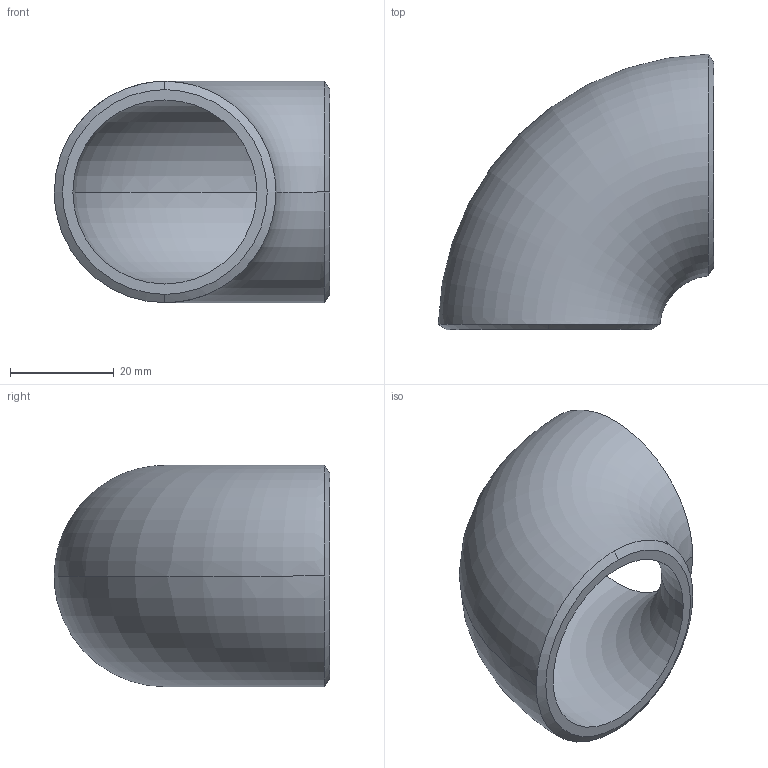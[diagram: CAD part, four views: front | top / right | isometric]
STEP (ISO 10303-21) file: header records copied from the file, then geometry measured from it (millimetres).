
FILE_DESCRIPTION (( 'STEP AP214' ), '1' );
FILE_NAME ('Elbow-short-90deg_Sch40-32A.STEP', '2021-08-25T01:09:34', ( 'ASIS User' ), ( 'ASIS User' ), 'SwSTEP 2.0', 'SolidWorks 2021', '' );
FILE_SCHEMA (( 'AUTOMOTIVE_DESIGN' ));
Length unit declared in the file: millimetre
Products named in the file (1): Elbow-short-90deg_Sch40-32A
Bounding box: 53.14 x 53.14 x 42.7 mm (x, y, z)
Volume: 21876.8 mm3; surface area: 12960.8 mm2
Topology: 1 solids, 1 shells, 10 faces, 22 edges, 14 vertices
Faces by surface type: torus 4, cone 4, plane 2
Entity records: 538 total; most frequent: CARTESIAN_POINT 277, DIRECTION 50, ORIENTED_EDGE 44, AXIS2_PLACEMENT_3D 23, EDGE_CURVE 22, VERTEX_POINT 14, CIRCLE 12, EDGE_LOOP 12
